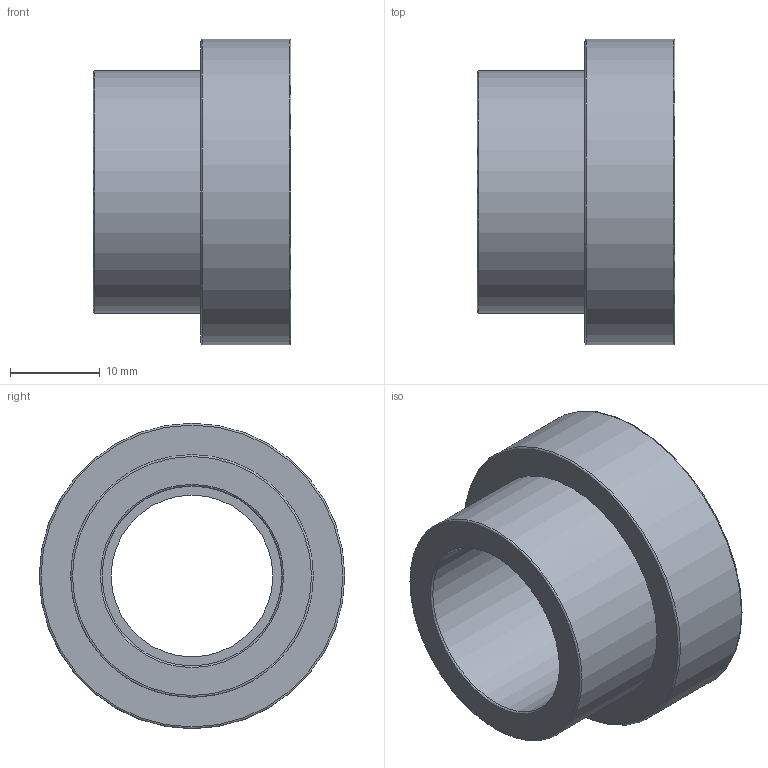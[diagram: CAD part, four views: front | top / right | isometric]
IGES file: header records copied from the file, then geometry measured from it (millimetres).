
Global section: file name: 055000020.ipt; native system: Autodesk Inventor 2015; preprocessor: unknown; author: KIM; date: 20171207.165701; units: millimetre
Bounding box: 22 x 34 x 34 mm (x, y, z)
Volume: 8804.8 mm3; surface area: 5163.7 mm2
Topology: 1 solids, 1 shells, 21 faces, 60 edges, 45 vertices
Faces by surface type: revolution 12, plane 6, cylinder 3
Full cylindrical faces by diameter (mm): 23.6 x1, 27 x1, 34 x1
